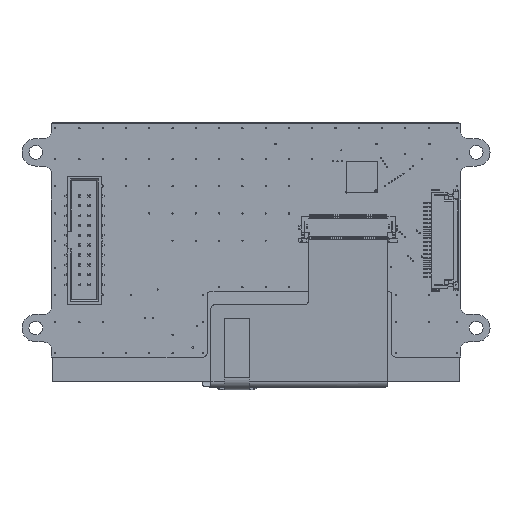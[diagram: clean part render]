
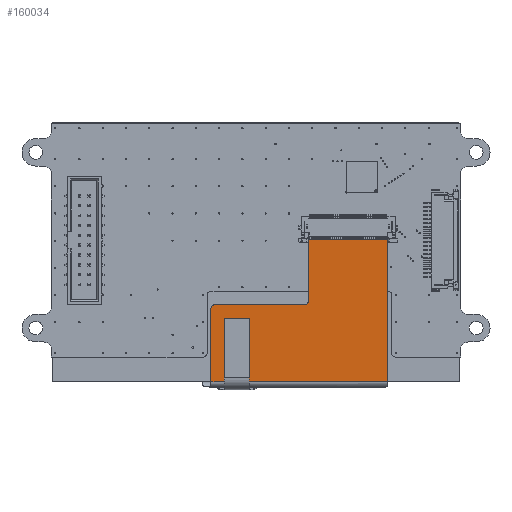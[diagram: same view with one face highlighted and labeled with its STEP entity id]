
A CAD part, top view. The second image highlights one B-rep face of the part: STEP entity #160034.
In plain terms, the highlighted planar face has unit normal (0, -0.063, 0.998) as drawn and (0, -0.998, 0.063) by its records, which use the part's own axes.
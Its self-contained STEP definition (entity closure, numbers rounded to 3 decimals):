
#1738 = CARTESIAN_POINT ( 'NONE',  ( 13.677, -0.966, 31.225 ) ) ;
#2739 = CARTESIAN_POINT ( 'NONE',  ( -31.923, -3.327, -6.317 ) ) ;
#6600 = EDGE_CURVE ( 'NONE', #154318, #14656, #39771, .T. ) ;
#7845 = DIRECTION ( 'NONE',  ( 0., 0.998, -0.063 ) ) ;
#8292 = VECTOR ( 'NONE', #48301, 1000. ) ;
#8631 = CARTESIAN_POINT ( 'NONE',  ( -11.423, -2.276, 10.402 ) ) ;
#10007 = CARTESIAN_POINT ( 'NONE',  ( 12.677, -2.15, 12.399 ) ) ;
#12518 = LINE ( 'NONE', #129736, #8292 ) ;
#14656 = VERTEX_POINT ( 'NONE', #1738 ) ;
#23732 = DIRECTION ( 'NONE',  ( 0., 0.063, 0.998 ) ) ;
#30868 = DIRECTION ( 'NONE',  ( 0., 0.063, 0.998 ) ) ;
#31592 = EDGE_CURVE ( 'NONE', #152618, #103638, #63330, .T. ) ;
#32055 = CARTESIAN_POINT ( 'NONE',  ( 13.677, -3.327, -6.317 ) ) ;
#36728 = LINE ( 'NONE', #130621, #68649 ) ;
#36748 = DIRECTION ( 'NONE',  ( 1., 0., 0. ) ) ;
#37625 = EDGE_CURVE ( 'NONE', #52808, #154318, #79701, .T. ) ;
#39771 = LINE ( 'NONE', #32055, #44048 ) ;
#40411 = PLANE ( 'NONE',  #94006 ) ;
#40986 = CARTESIAN_POINT ( 'NONE',  ( -32.88, -3.327, -6.317 ) ) ;
#41456 = CARTESIAN_POINT ( 'NONE',  ( -11.423, -3.271, -5.416 ) ) ;
#41851 = EDGE_CURVE ( 'NONE', #123224, #14656, #12518, .T. ) ;
#43217 = EDGE_LOOP ( 'NONE', ( #91761, #68572, #174955, #68646, #124801, #66928, #163819, #66773 ) ) ;
#44048 = VECTOR ( 'NONE', #30868, 1000. ) ;
#48301 = DIRECTION ( 'NONE',  ( 1., 0., 0. ) ) ;
#48446 = AXIS2_PLACEMENT_3D ( 'NONE', #89442, #7845, #103044 ) ;
#52808 = VERTEX_POINT ( 'NONE', #80766 ) ;
#54717 = DIRECTION ( 'NONE',  ( 0., -0.063, -0.998 ) ) ;
#59098 = EDGE_CURVE ( 'NONE', #99855, #152618, #111132, .T. ) ;
#63330 = CIRCLE ( 'NONE', #48446, 1. ) ;
#66773 = ORIENTED_EDGE ( 'NONE', *, *, #6600, .T. ) ;
#66928 = ORIENTED_EDGE ( 'NONE', *, *, #97860, .T. ) ;
#68347 = LINE ( 'NONE', #118283, #140706 ) ;
#68572 = ORIENTED_EDGE ( 'NONE', *, *, #148749, .T. ) ;
#68646 = ORIENTED_EDGE ( 'NONE', *, *, #59098, .T. ) ;
#68649 = VECTOR ( 'NONE', #90236, 1000. ) ;
#70993 = DIRECTION ( 'NONE',  ( 0., 0.063, 0.998 ) ) ;
#71587 = CARTESIAN_POINT ( 'NONE',  ( -11.423, -3.327, -6.317 ) ) ;
#73957 = AXIS2_PLACEMENT_3D ( 'NONE', #10007, #105197, #23732 ) ;
#79701 = CIRCLE ( 'NONE', #73957, 1. ) ;
#80766 = CARTESIAN_POINT ( 'NONE',  ( 12.677, -2.213, 11.4 ) ) ;
#86588 = CARTESIAN_POINT ( 'NONE',  ( 13.677, -2.15, 12.399 ) ) ;
#87029 = CARTESIAN_POINT ( 'NONE',  ( -10.423, -2.213, 11.4 ) ) ;
#89442 = CARTESIAN_POINT ( 'NONE',  ( -10.423, -2.276, 10.402 ) ) ;
#90236 = DIRECTION ( 'NONE',  ( 1., 0., 0. ) ) ;
#91422 = EDGE_CURVE ( 'NONE', #174893, #99855, #36728, .T. ) ;
#91761 = ORIENTED_EDGE ( 'NONE', *, *, #41851, .F. ) ;
#92218 = VECTOR ( 'NONE', #98020, 1000. ) ;
#94006 = AXIS2_PLACEMENT_3D ( 'NONE', #40986, #136131, #54717 ) ;
#97860 = EDGE_CURVE ( 'NONE', #103638, #52808, #68347, .T. ) ;
#98020 = DIRECTION ( 'NONE',  ( 0., -0.063, -0.998 ) ) ;
#99855 = VERTEX_POINT ( 'NONE', #41456 ) ;
#103044 = DIRECTION ( 'NONE',  ( 0., -0.063, -0.998 ) ) ;
#103638 = VERTEX_POINT ( 'NONE', #87029 ) ;
#105197 = DIRECTION ( 'NONE',  ( 0., -0.998, 0.063 ) ) ;
#111132 = LINE ( 'NONE', #71587, #130251 ) ;
#111219 = FACE_OUTER_BOUND ( 'NONE', #43217, .T. ) ;
#118283 = CARTESIAN_POINT ( 'NONE',  ( -32.88, -2.213, 11.4 ) ) ;
#120972 = CARTESIAN_POINT ( 'NONE',  ( -31.923, -0.966, 31.225 ) ) ;
#123224 = VERTEX_POINT ( 'NONE', #120972 ) ;
#124111 = LINE ( 'NONE', #2739, #92218 ) ;
#124801 = ORIENTED_EDGE ( 'NONE', *, *, #31592, .T. ) ;
#129736 = CARTESIAN_POINT ( 'NONE',  ( -32.88, -0.966, 31.225 ) ) ;
#130251 = VECTOR ( 'NONE', #70993, 1000. ) ;
#130621 = CARTESIAN_POINT ( 'NONE',  ( -32.88, -3.271, -5.416 ) ) ;
#136131 = DIRECTION ( 'NONE',  ( 0., -0.998, 0.063 ) ) ;
#140706 = VECTOR ( 'NONE', #36748, 1000. ) ;
#146950 = CARTESIAN_POINT ( 'NONE',  ( -31.923, -3.271, -5.416 ) ) ;
#148749 = EDGE_CURVE ( 'NONE', #123224, #174893, #124111, .T. ) ;
#152618 = VERTEX_POINT ( 'NONE', #8631 ) ;
#154318 = VERTEX_POINT ( 'NONE', #86588 ) ;
#160034 = ADVANCED_FACE ( 'NONE', ( #111219 ), #40411, .T. ) ;
#163819 = ORIENTED_EDGE ( 'NONE', *, *, #37625, .T. ) ;
#174893 = VERTEX_POINT ( 'NONE', #146950 ) ;
#174955 = ORIENTED_EDGE ( 'NONE', *, *, #91422, .T. ) ;
